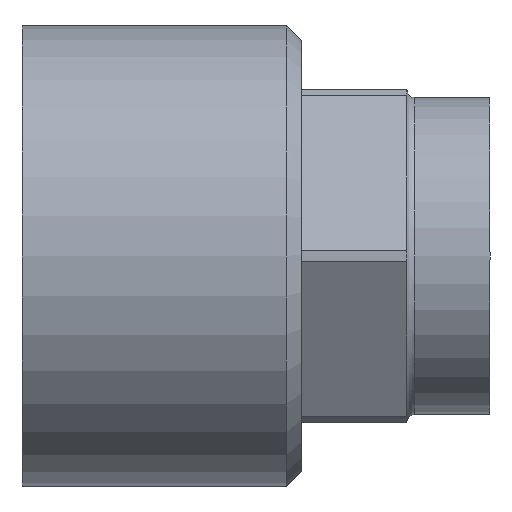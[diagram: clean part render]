
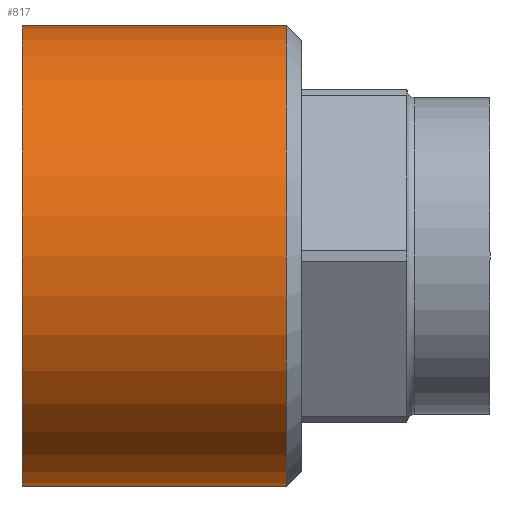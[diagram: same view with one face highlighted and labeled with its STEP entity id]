
A CAD part, front view. The second image highlights one B-rep face of the part: STEP entity #817.
In plain terms, the highlighted cylindrical face has radius 15.25 mm (diameter 30.5 mm), a full revolution.
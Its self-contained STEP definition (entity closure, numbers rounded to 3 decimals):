
#643=CARTESIAN_POINT('',(0.,15.25,0.0));
#644=VERTEX_POINT('',#643);
#645=CARTESIAN_POINT('',(0.,0.,0.0));
#646=DIRECTION('',(1.0,0.,0.0));
#647=DIRECTION('',(0.,1.0,0.0));
#648=AXIS2_PLACEMENT_3D('',#645,#646,#647);
#649=CIRCLE('',#648,15.25);
#650=EDGE_CURVE('',#644,#644,#649,.T.);
#798=CARTESIAN_POINT('',(8.75,0.,0.0));
#799=DIRECTION('',(1.0,0.,0.0));
#800=DIRECTION('',(0.,1.0,0.0));
#801=AXIS2_PLACEMENT_3D('',#798,#799,#800);
#802=CYLINDRICAL_SURFACE('',#801,15.25);
#803=CARTESIAN_POINT('',(17.5,15.25,0.0));
#804=VERTEX_POINT('',#803);
#805=CARTESIAN_POINT('',(17.5,0.,0.0));
#806=DIRECTION('',(1.0,0.,0.0));
#807=DIRECTION('',(0.,1.0,0.0));
#808=AXIS2_PLACEMENT_3D('',#805,#806,#807);
#809=CIRCLE('',#808,15.25);
#810=EDGE_CURVE('',#804,#804,#809,.T.);
#811=ORIENTED_EDGE('',*,*,#810,.F.);
#812=EDGE_LOOP('',(#811));
#813=FACE_OUTER_BOUND('',#812,.T.);
#814=ORIENTED_EDGE('',*,*,#650,.T.);
#815=EDGE_LOOP('',(#814));
#816=FACE_BOUND('',#815,.T.);
#817=ADVANCED_FACE('',(#813,#816),#802,.T.);
